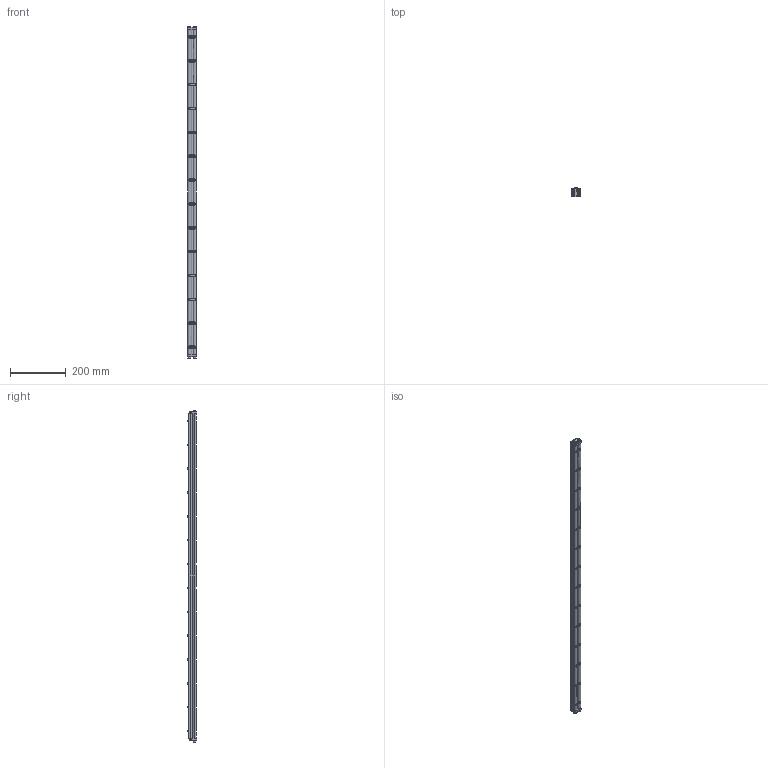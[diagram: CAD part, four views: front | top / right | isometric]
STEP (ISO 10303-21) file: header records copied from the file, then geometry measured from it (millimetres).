
FILE_DESCRIPTION((''),'2;1');
FILE_NAME('324946_ASM','2023-03-14T',('jenni.wallner'),(''),'PRO/ENGINEER BY PARAMETRIC TECHNOLOGY CORPORATION, 2012420','PRO/ENGINEER BY PARAMETRIC TECHNOLOGY CORPORATION, 2012420','');
FILE_SCHEMA(('CONFIG_CONTROL_DESIGN'));
Length unit declared in the file: inch
Products named in the file (7): X920693M; 240826; 2436WW_243646; 2410WW_CAE_241046; 240827_CAE; ASM0001_ASM; 324946_ASM
Assembly tree (23 placements, depth 3):
  324946_ASM
    ASM0001_ASM
      X920693M  x4
      240826  x14
      2436WW_243646
      2410WW_CAE_241046
      240827_CAE  x2
Bounding box: 30.88 x 33.34 x 1195.81 mm (x, y, z)
Volume: 568816.2 mm3; surface area: 337110.4 mm2
Topology: 22 solids, 22 shells, 818 faces, 2336 edges, 1542 vertices
Faces by surface type: cylinder 376, plane 270, cone 116, torus 56
Entity records: 19826 total; most frequent: CARTESIAN_POINT 4958, ORIENTED_EDGE 3264, DIRECTION 3106, EDGE_CURVE 1632, AXIS2_PLACEMENT_3D 1176, VERTEX_POINT 1090, VECTOR 754, LINE 754
